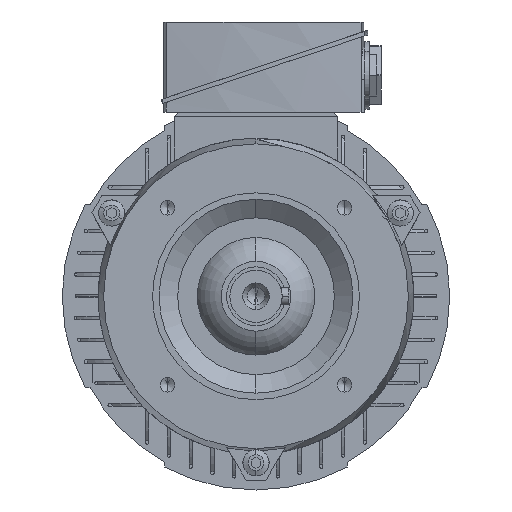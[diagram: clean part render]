
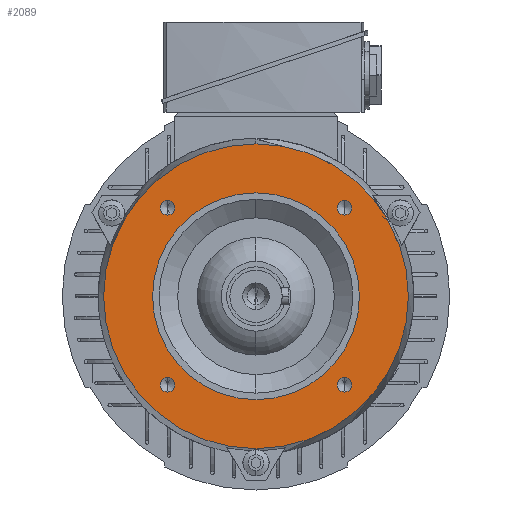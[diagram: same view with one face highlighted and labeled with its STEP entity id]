
A CAD part, left-side view. The second image highlights one B-rep face of the part: STEP entity #2089.
In plain terms, the highlighted planar face has unit normal (-1, 0, 0).
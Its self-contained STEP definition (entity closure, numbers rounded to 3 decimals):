
#2089=ADVANCED_FACE('',(#4211,#4212,#4213,#4214,#4215,#4216),#4217,.T.);
#4211=FACE_BOUND('',#6336,.T.);
#4212=FACE_BOUND('',#6337,.T.);
#4213=FACE_BOUND('',#6338,.T.);
#4214=FACE_BOUND('',#6339,.T.);
#4215=FACE_OUTER_BOUND('',#6340,.T.);
#4216=FACE_BOUND('',#6341,.T.);
#4217=PLANE('',#6342);
#6336=EDGE_LOOP('',(#12917,#12918));
#6337=EDGE_LOOP('',(#12919,#12920));
#6338=EDGE_LOOP('',(#12921,#12922));
#6339=EDGE_LOOP('',(#12923,#12924));
#6340=EDGE_LOOP('',(#12925,#12926));
#6341=EDGE_LOOP('',(#12927,#12928));
#6342=AXIS2_PLACEMENT_3D('',#12929,#12930,#12931);
#12917=ORIENTED_EDGE('',*,*,#15539,.T.);
#12918=ORIENTED_EDGE('',*,*,#13018,.T.);
#12919=ORIENTED_EDGE('',*,*,#15543,.T.);
#12920=ORIENTED_EDGE('',*,*,#13010,.T.);
#12921=ORIENTED_EDGE('',*,*,#15547,.T.);
#12922=ORIENTED_EDGE('',*,*,#13002,.T.);
#12923=ORIENTED_EDGE('',*,*,#15551,.T.);
#12924=ORIENTED_EDGE('',*,*,#12994,.T.);
#12925=ORIENTED_EDGE('',*,*,#15465,.F.);
#12926=ORIENTED_EDGE('',*,*,#13046,.F.);
#12927=ORIENTED_EDGE('',*,*,#12991,.T.);
#12928=ORIENTED_EDGE('',*,*,#15575,.T.);
#12929=CARTESIAN_POINT('',(-34.5,0.0,58.75));
#12930=DIRECTION('',(-1.0,0.0,0.));
#12931=DIRECTION('',(0.,0.0,-1.0));
#12991=EDGE_CURVE('',#15613,#15617,#15619,.T.);
#12994=EDGE_CURVE('',#15624,#15621,#15625,.T.);
#13002=EDGE_CURVE('',#15637,#15634,#15638,.T.);
#13010=EDGE_CURVE('',#15650,#15647,#15651,.T.);
#13018=EDGE_CURVE('',#15663,#15660,#15664,.T.);
#13046=EDGE_CURVE('',#15707,#15710,#15711,.T.);
#15465=EDGE_CURVE('',#15710,#15707,#19321,.T.);
#15539=EDGE_CURVE('',#15660,#15663,#19423,.T.);
#15543=EDGE_CURVE('',#15647,#15650,#19427,.T.);
#15547=EDGE_CURVE('',#15634,#15637,#19431,.T.);
#15551=EDGE_CURVE('',#15621,#15624,#19435,.T.);
#15575=EDGE_CURVE('',#15617,#15613,#19461,.T.);
#15613=VERTEX_POINT('',#19503);
#15617=VERTEX_POINT('',#19508);
#15619=CIRCLE('',#19511,47.5);
#15621=VERTEX_POINT('',#19513);
#15624=VERTEX_POINT('',#19517);
#15625=CIRCLE('',#19518,3.325);
#15634=VERTEX_POINT('',#19530);
#15637=VERTEX_POINT('',#19534);
#15638=CIRCLE('',#19535,3.325);
#15647=VERTEX_POINT('',#19547);
#15650=VERTEX_POINT('',#19551);
#15651=CIRCLE('',#19552,3.325);
#15660=VERTEX_POINT('',#19564);
#15663=VERTEX_POINT('',#19568);
#15664=CIRCLE('',#19569,3.325);
#15707=VERTEX_POINT('',#19653);
#15710=VERTEX_POINT('',#19656);
#15711=CIRCLE('',#19657,70.);
#19321=CIRCLE('',#25986,70.);
#19423=CIRCLE('',#26130,3.325);
#19427=CIRCLE('',#26134,3.325);
#19431=CIRCLE('',#26138,3.325);
#19435=CIRCLE('',#26142,3.325);
#19461=CIRCLE('',#26177,47.5);
#19503=CARTESIAN_POINT('',(-34.5,0.0,47.5));
#19508=CARTESIAN_POINT('',(-34.5,0.,-47.5));
#19511=AXIS2_PLACEMENT_3D('',#26219,#26220,#26221);
#19513=CARTESIAN_POINT('',(-34.5,-40.659,37.334));
#19517=CARTESIAN_POINT('',(-34.5,-40.659,43.984));
#19518=AXIS2_PLACEMENT_3D('',#26223,#26224,#26225);
#19530=CARTESIAN_POINT('',(-34.5,-40.659,-43.984));
#19534=CARTESIAN_POINT('',(-34.5,-40.659,-37.334));
#19535=AXIS2_PLACEMENT_3D('',#26233,#26234,#26235);
#19547=CARTESIAN_POINT('',(-34.5,40.659,-43.984));
#19551=CARTESIAN_POINT('',(-34.5,40.659,-37.334));
#19552=AXIS2_PLACEMENT_3D('',#26243,#26244,#26245);
#19564=CARTESIAN_POINT('',(-34.5,40.659,37.334));
#19568=CARTESIAN_POINT('',(-34.5,40.659,43.984));
#19569=AXIS2_PLACEMENT_3D('',#26253,#26254,#26255);
#19653=CARTESIAN_POINT('',(-34.5,0.,-70.));
#19656=CARTESIAN_POINT('',(-34.5,0.0,70.));
#19657=AXIS2_PLACEMENT_3D('',#26289,#26290,#26291);
#25986=AXIS2_PLACEMENT_3D('',#28995,#28996,#28997);
#26130=AXIS2_PLACEMENT_3D('',#29061,#29062,#29063);
#26134=AXIS2_PLACEMENT_3D('',#29067,#29068,#29069);
#26138=AXIS2_PLACEMENT_3D('',#29073,#29074,#29075);
#26142=AXIS2_PLACEMENT_3D('',#29079,#29080,#29081);
#26177=AXIS2_PLACEMENT_3D('',#29097,#29098,#29099);
#26219=CARTESIAN_POINT('',(-34.5,0.0,0.0));
#26220=DIRECTION('',(1.0,0.0,-0.0));
#26221=DIRECTION('',(0.0,0.0,1.0));
#26223=CARTESIAN_POINT('',(-34.5,-40.659,40.659));
#26224=DIRECTION('',(1.0,0.0,0.));
#26225=DIRECTION('',(0.,0.0,-1.0));
#26233=CARTESIAN_POINT('',(-34.5,-40.659,-40.659));
#26234=DIRECTION('',(1.0,0.0,0.));
#26235=DIRECTION('',(0.,0.0,-1.0));
#26243=CARTESIAN_POINT('',(-34.5,40.659,-40.659));
#26244=DIRECTION('',(1.0,0.0,0.));
#26245=DIRECTION('',(0.,0.0,-1.0));
#26253=CARTESIAN_POINT('',(-34.5,40.659,40.659));
#26254=DIRECTION('',(1.0,0.0,0.));
#26255=DIRECTION('',(0.,0.0,-1.0));
#26289=CARTESIAN_POINT('',(-34.5,0.0,0.0));
#26290=DIRECTION('',(1.0,0.0,-0.0));
#26291=DIRECTION('',(0.0,0.0,1.0));
#28995=CARTESIAN_POINT('',(-34.5,0.0,0.0));
#28996=DIRECTION('',(1.0,0.0,-0.0));
#28997=DIRECTION('',(0.0,0.0,1.0));
#29061=CARTESIAN_POINT('',(-34.5,40.659,40.659));
#29062=DIRECTION('',(1.0,0.0,0.));
#29063=DIRECTION('',(0.,0.0,-1.0));
#29067=CARTESIAN_POINT('',(-34.5,40.659,-40.659));
#29068=DIRECTION('',(1.0,0.0,0.));
#29069=DIRECTION('',(0.,0.0,-1.0));
#29073=CARTESIAN_POINT('',(-34.5,-40.659,-40.659));
#29074=DIRECTION('',(1.0,0.0,0.));
#29075=DIRECTION('',(0.,0.0,-1.0));
#29079=CARTESIAN_POINT('',(-34.5,-40.659,40.659));
#29080=DIRECTION('',(1.0,0.0,0.));
#29081=DIRECTION('',(0.,0.0,-1.0));
#29097=CARTESIAN_POINT('',(-34.5,0.0,0.0));
#29098=DIRECTION('',(1.0,0.0,-0.0));
#29099=DIRECTION('',(0.0,0.0,1.0));
